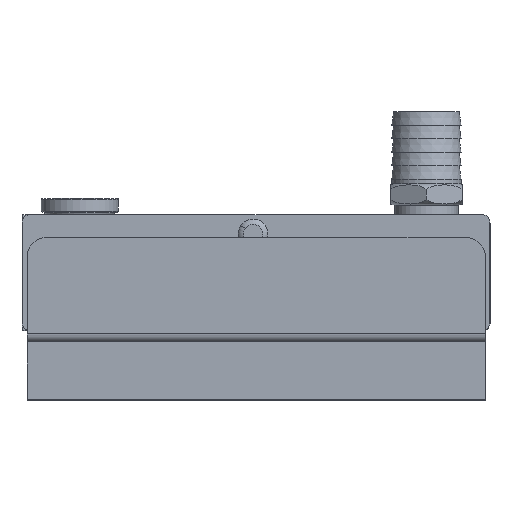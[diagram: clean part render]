
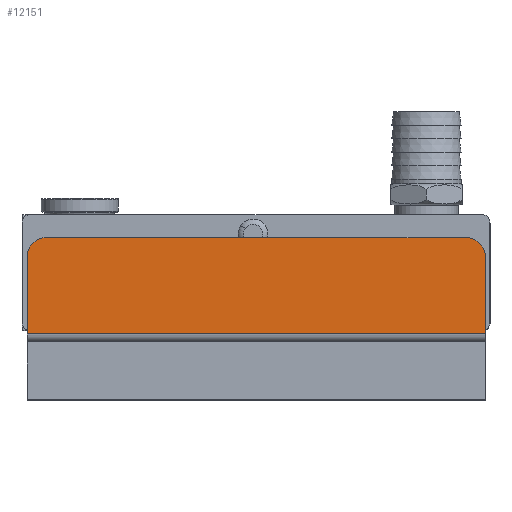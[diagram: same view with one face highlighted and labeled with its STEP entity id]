
A CAD part, top view. The second image highlights one B-rep face of the part: STEP entity #12151.
In plain terms, the highlighted planar face has unit normal (0, 0, 1).
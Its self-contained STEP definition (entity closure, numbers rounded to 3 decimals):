
#633 = AXIS2_PLACEMENT_3D ( 'NONE', #2018, #2116, #2034 ) ;
#721 = AXIS2_PLACEMENT_3D ( 'NONE', #10354, #10341, #10522 ) ;
#722 = AXIS2_PLACEMENT_3D ( 'NONE', #10338, #10543, #10421 ) ;
#2018 = CARTESIAN_POINT ( 'NONE',  ( -70.736, -6.314, 61.948 ) ) ;
#2034 = DIRECTION ( 'NONE',  ( 1., 0., 0. ) ) ;
#2114 = PLANE ( 'NONE',  #633 ) ;
#2116 = DIRECTION ( 'NONE',  ( 0., 0., -1. ) ) ;
#3861 = VERTEX_POINT ( 'NONE', #4359 ) ;
#3944 = ORIENTED_EDGE ( 'NONE', *, *, #11967, .T. ) ;
#4012 = CARTESIAN_POINT ( 'NONE',  ( -70.736, -5.314, 61.948 ) ) ;
#4034 = CARTESIAN_POINT ( 'NONE',  ( 48.264, -5.314, 61.948 ) ) ;
#4127 = VERTEX_POINT ( 'NONE', #4303 ) ;
#4140 = CARTESIAN_POINT ( 'NONE',  ( -70.736, 14.686, 61.948 ) ) ;
#4198 = VERTEX_POINT ( 'NONE', #4297 ) ;
#4297 = CARTESIAN_POINT ( 'NONE',  ( 43.264, 19.686, 61.948 ) ) ;
#4303 = CARTESIAN_POINT ( 'NONE',  ( 48.264, 14.686, 61.948 ) ) ;
#4359 = CARTESIAN_POINT ( 'NONE',  ( -65.736, 19.686, 61.948 ) ) ;
#4572 = ORIENTED_EDGE ( 'NONE', *, *, #11961, .F. ) ;
#7718 = ORIENTED_EDGE ( 'NONE', *, *, #11965, .T. ) ;
#7719 = ORIENTED_EDGE ( 'NONE', *, *, #11964, .F. ) ;
#7721 = ORIENTED_EDGE ( 'NONE', *, *, #11962, .T. ) ;
#7739 = ORIENTED_EDGE ( 'NONE', *, *, #11966, .T. ) ;
#8791 = VERTEX_POINT ( 'NONE', #4140 ) ;
#8890 = VERTEX_POINT ( 'NONE', #4034 ) ;
#8907 = VERTEX_POINT ( 'NONE', #4012 ) ;
#9587 = EDGE_LOOP ( 'NONE', ( #4572, #7721, #7719, #7718, #7739, #3944 ) ) ;
#10335 = CARTESIAN_POINT ( 'NONE',  ( -70.736, 19.686, 61.948 ) ) ;
#10338 = CARTESIAN_POINT ( 'NONE',  ( -65.736, 14.686, 61.948 ) ) ;
#10341 = DIRECTION ( 'NONE',  ( 0., 0., 1. ) ) ;
#10348 = CARTESIAN_POINT ( 'NONE',  ( -70.736, -5.314, 61.948 ) ) ;
#10349 = DIRECTION ( 'NONE',  ( 0., 1., 0. ) ) ;
#10354 = CARTESIAN_POINT ( 'NONE',  ( 43.264, 14.686, 61.948 ) ) ;
#10400 = CARTESIAN_POINT ( 'NONE',  ( -70.736, -6.314, 61.948 ) ) ;
#10421 = DIRECTION ( 'NONE',  ( 1., 0., 0. ) ) ;
#10520 = DIRECTION ( 'NONE',  ( 1., 0., 0. ) ) ;
#10522 = DIRECTION ( 'NONE',  ( 1., 0., 0. ) ) ;
#10536 = CARTESIAN_POINT ( 'NONE',  ( 48.264, -6.314, 61.948 ) ) ;
#10543 = DIRECTION ( 'NONE',  ( 0., 0., 1. ) ) ;
#10571 = DIRECTION ( 'NONE',  ( 1., 0., 0. ) ) ;
#10599 = DIRECTION ( 'NONE',  ( 0., 1., 0. ) ) ;
#10659 = LINE ( 'NONE', #10400, #10890 ) ;
#10667 = CIRCLE ( 'NONE', #721, 5. ) ;
#10730 = VECTOR ( 'NONE', #10571, 1000. ) ;
#10734 = LINE ( 'NONE', #10335, #10730 ) ;
#10735 = VECTOR ( 'NONE', #10349, 1000. ) ;
#10740 = CIRCLE ( 'NONE', #722, 5. ) ;
#10750 = LINE ( 'NONE', #10536, #10735 ) ;
#10784 = FACE_OUTER_BOUND ( 'NONE', #9587, .T. ) ;
#10829 = LINE ( 'NONE', #10348, #10945 ) ;
#10890 = VECTOR ( 'NONE', #10599, 1000. ) ;
#10945 = VECTOR ( 'NONE', #10520, 1000. ) ;
#11961 = EDGE_CURVE ( 'NONE', #3861, #4198, #10734, .T. ) ;
#11962 = EDGE_CURVE ( 'NONE', #3861, #8791, #10740, .T. ) ;
#11964 = EDGE_CURVE ( 'NONE', #8907, #8791, #10659, .T. ) ;
#11965 = EDGE_CURVE ( 'NONE', #8907, #8890, #10829, .T. ) ;
#11966 = EDGE_CURVE ( 'NONE', #8890, #4127, #10750, .T. ) ;
#11967 = EDGE_CURVE ( 'NONE', #4127, #4198, #10667, .T. ) ;
#12151 = ADVANCED_FACE ( 'NONE', ( #10784 ), #2114, .F. ) ;
